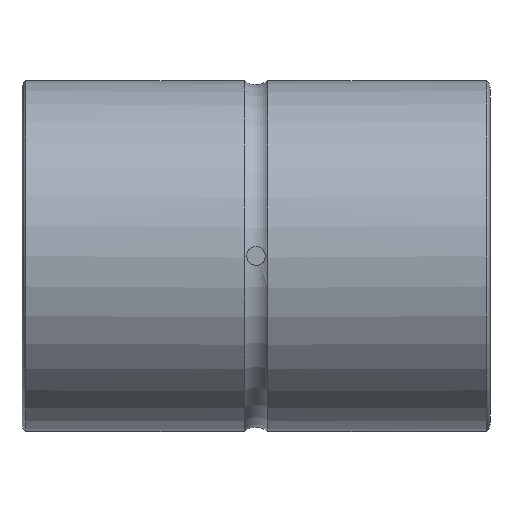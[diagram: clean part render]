
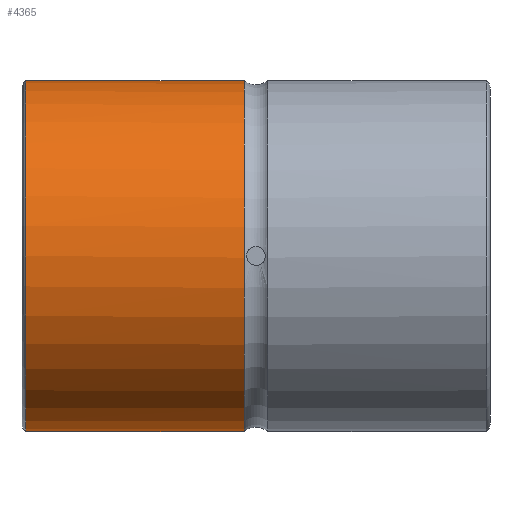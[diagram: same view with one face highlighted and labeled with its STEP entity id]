
A CAD part, front view. The second image highlights one B-rep face of the part: STEP entity #4365.
In plain terms, the highlighted cylindrical face has radius 37.5 mm (diameter 75 mm), a full revolution.
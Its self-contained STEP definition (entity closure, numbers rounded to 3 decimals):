
#38=B_SPLINE_CURVE_WITH_KNOTS('',3,(#7248,#7249,#7250,#7251,#7252,#7253,
#7254,#7255,#7256,#7257),.UNSPECIFIED.,.F.,.F.,(4,1,1,1,1,1,1,4),(0.,0.003,
0.006,0.009,0.012,0.015,
0.018,0.024),.UNSPECIFIED.);
#384=LINE('',#7260,#790);
#385=LINE('',#7261,#791);
#790=VECTOR('',#5761,1000.);
#791=VECTOR('',#5762,1000.);
#1555=ORIENTED_EDGE('',*,*,#2677,.T.);
#1556=ORIENTED_EDGE('',*,*,#2678,.T.);
#1557=ORIENTED_EDGE('',*,*,#2670,.F.);
#1558=ORIENTED_EDGE('',*,*,#2679,.T.);
#1559=ORIENTED_EDGE('',*,*,#2676,.T.);
#2670=EDGE_CURVE('',#3227,#3228,#3549,.T.);
#2676=EDGE_CURVE('',#3233,#3233,#3551,.T.);
#2677=EDGE_CURVE('',#3234,#3235,#38,.T.);
#2678=EDGE_CURVE('',#3235,#3228,#384,.T.);
#2679=EDGE_CURVE('',#3227,#3234,#385,.F.);
#3227=VERTEX_POINT('',#7193);
#3228=VERTEX_POINT('',#7194);
#3233=VERTEX_POINT('',#7246);
#3234=VERTEX_POINT('',#7258);
#3235=VERTEX_POINT('',#7259);
#3549=CIRCLE('',#4800,37.5);
#3551=CIRCLE('',#4803,37.5);
#3726=EDGE_LOOP('',(#1555,#1556,#1557,#1558));
#3727=EDGE_LOOP('',(#1559));
#3998=FACE_BOUND('',#3726,.T.);
#3999=FACE_BOUND('',#3727,.T.);
#4226=CYLINDRICAL_SURFACE('',#4804,37.5);
#4365=ADVANCED_FACE('',(#3998,#3999),#4226,.T.);
#4800=AXIS2_PLACEMENT_3D('',#7192,#5751,#5752);
#4803=AXIS2_PLACEMENT_3D('',#7245,#5757,#5758);
#4804=AXIS2_PLACEMENT_3D('',#7247,#5759,#5760);
#5751=DIRECTION('',(1.,0.,0.));
#5752=DIRECTION('',(0.,0.,-1.));
#5757=DIRECTION('',(1.,0.,0.));
#5758=DIRECTION('',(0.,0.,-1.));
#5759=DIRECTION('',(1.,0.,0.));
#5760=DIRECTION('',(0.,0.,-1.));
#5761=DIRECTION('',(1.,0.,0.));
#5762=DIRECTION('',(1.,0.,0.));
#7192=CARTESIAN_POINT('',(-2.53,0.,0.));
#7193=CARTESIAN_POINT('',(-2.53,36.742,7.5));
#7194=CARTESIAN_POINT('',(-2.53,36.742,-7.5));
#7245=CARTESIAN_POINT('',(-49.2,0.,0.));
#7246=CARTESIAN_POINT('',(-49.2,0.,-37.5));
#7247=CARTESIAN_POINT('',(50.,0.,0.));
#7248=CARTESIAN_POINT('',(-22.5,36.742,7.5));
#7249=CARTESIAN_POINT('',(-23.494,36.742,7.5));
#7250=CARTESIAN_POINT('',(-25.449,36.826,7.106));
#7251=CARTESIAN_POINT('',(-27.941,37.124,5.44));
#7252=CARTESIAN_POINT('',(-29.605,37.418,2.954));
#7253=CARTESIAN_POINT('',(-30.196,37.541,0.006));
#7254=CARTESIAN_POINT('',(-29.61,37.42,-2.944));
#7255=CARTESIAN_POINT('',(-27.388,37.022,-6.275));
#7256=CARTESIAN_POINT('',(-24.487,36.742,-7.5));
#7257=CARTESIAN_POINT('',(-22.5,36.742,-7.5));
#7258=CARTESIAN_POINT('',(-22.5,36.742,7.5));
#7259=CARTESIAN_POINT('',(-22.5,36.742,-7.5));
#7260=CARTESIAN_POINT('',(50.,36.742,-7.5));
#7261=CARTESIAN_POINT('',(50.,36.742,7.5));
